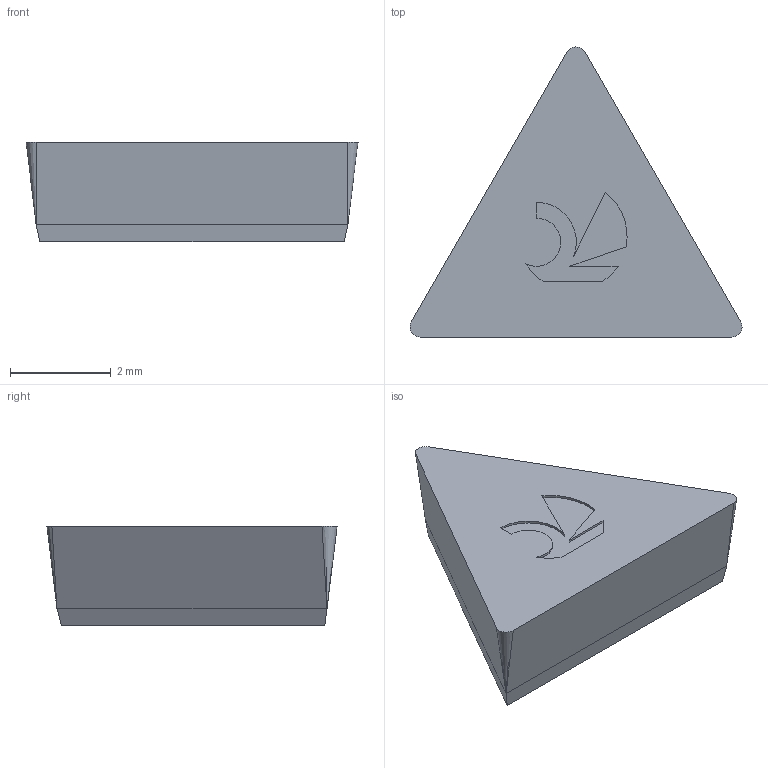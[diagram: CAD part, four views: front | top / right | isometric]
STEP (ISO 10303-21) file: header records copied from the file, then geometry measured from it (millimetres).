
FILE_DESCRIPTION(('no description'),'unknown implementation level');
FILE_NAME('soliddBtIGA_3g94GLisrJrgNWV3TUN8_1.STP',' ',('CIMSOURCE GmbH'),('CADClick - KiM GmbH - www.kimweb.de'),'unknown preprocess','ACIS','unknown authorization');
FILE_SCHEMA(('automotive_design'));
Length unit declared in the file: millimetre
Products named in the file (1): CUT
Bounding box: 6.58 x 5.75 x 1.98 mm (x, y, z)
Volume: 35.6 mm3; surface area: 74.6 mm2
Topology: 1 solids, 1 shells, 23 faces, 57 edges, 34 vertices
Faces by surface type: plane 14, cylinder 6, cone 3
Entity records: 1313 total; most frequent: DIRECTION 121, CARTESIAN_POINT 114, STYLED_ITEM 112, PRESENTATION_STYLE_ASSIGNMENT 112, COLOUR_RGB 112, ORIENTED_EDGE 108, EDGE_CURVE 54, CURVE_STYLE 54
